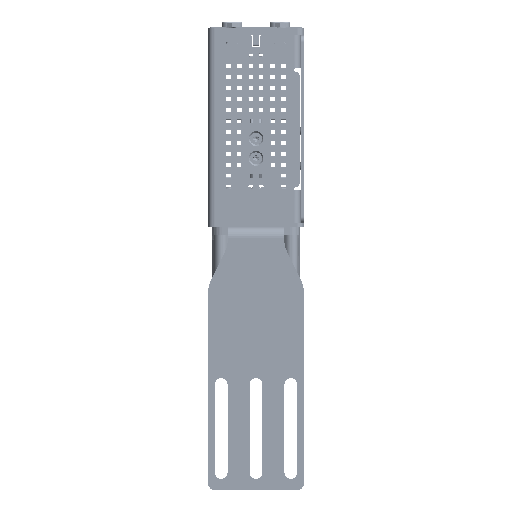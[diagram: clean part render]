
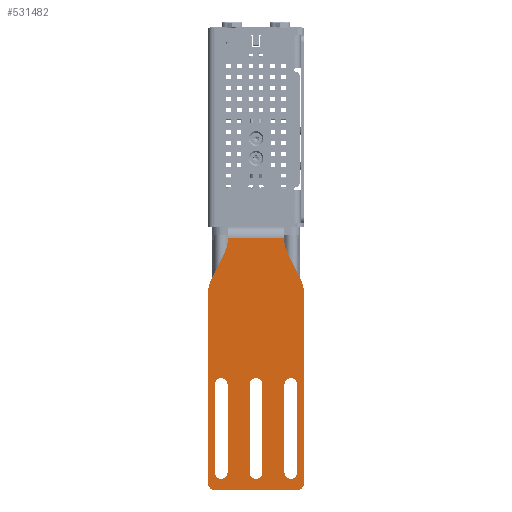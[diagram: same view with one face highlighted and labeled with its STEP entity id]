
A CAD part, left-side view. The second image highlights one B-rep face of the part: STEP entity #531482.
In plain terms, the highlighted planar face has unit normal (-1, 0, 0) as drawn and (0, 0, -1) by its records, which use the part's own axes.
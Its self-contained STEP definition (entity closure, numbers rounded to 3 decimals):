
#530785=DIRECTION('',(1.,0.,0.));
#530786=VECTOR('',#530785,40.);
#530787=CARTESIAN_POINT('',(12.,18.8,0.));
#530788=LINE('',#530787,#530786);
#530789=CARTESIAN_POINT('',(52.,15.88,0.));
#530790=DIRECTION('',(0.,0.,1.));
#530791=DIRECTION('',(0.,-1.,0.));
#530792=AXIS2_PLACEMENT_3D('',#530789,#530790,#530791);
#530794=DIRECTION('',(-1.,0.,0.));
#530795=VECTOR('',#530794,40.);
#530796=CARTESIAN_POINT('',(52.,12.96,0.));
#530797=LINE('',#530796,#530795);
#530798=CARTESIAN_POINT('',(12.,15.88,0.));
#530799=DIRECTION('',(0.,0.,1.));
#530800=DIRECTION('',(0.,1.,0.));
#530801=AXIS2_PLACEMENT_3D('',#530798,#530799,#530800);
#530803=DIRECTION('',(1.,0.,0.));
#530804=VECTOR('',#530803,40.);
#530805=CARTESIAN_POINT('',(12.,2.92,0.));
#530806=LINE('',#530805,#530804);
#530807=CARTESIAN_POINT('',(52.,0.,0.));
#530808=DIRECTION('',(0.,0.,1.));
#530809=DIRECTION('',(0.,-1.,0.));
#530810=AXIS2_PLACEMENT_3D('',#530807,#530808,#530809);
#530812=DIRECTION('',(-1.,0.,0.));
#530813=VECTOR('',#530812,40.);
#530814=CARTESIAN_POINT('',(52.,-2.92,0.));
#530815=LINE('',#530814,#530813);
#530816=CARTESIAN_POINT('',(12.,0.,0.));
#530817=DIRECTION('',(0.,0.,1.));
#530818=DIRECTION('',(0.,1.,0.));
#530819=AXIS2_PLACEMENT_3D('',#530816,#530817,#530818);
#530821=DIRECTION('',(1.,0.,0.));
#530822=VECTOR('',#530821,40.);
#530823=CARTESIAN_POINT('',(12.,-12.96,0.));
#530824=LINE('',#530823,#530822);
#530825=CARTESIAN_POINT('',(52.,-15.88,0.));
#530826=DIRECTION('',(0.,0.,1.));
#530827=DIRECTION('',(0.,-1.,0.));
#530828=AXIS2_PLACEMENT_3D('',#530825,#530826,#530827);
#530830=DIRECTION('',(-1.,0.,0.));
#530831=VECTOR('',#530830,40.);
#530832=CARTESIAN_POINT('',(52.,-18.8,0.));
#530833=LINE('',#530832,#530831);
#530834=CARTESIAN_POINT('',(12.,-15.88,0.));
#530835=DIRECTION('',(0.,0.,1.));
#530836=DIRECTION('',(0.,1.,0.));
#530837=AXIS2_PLACEMENT_3D('',#530834,#530835,#530836);
#530839=CARTESIAN_POINT('',(-29.459,6.83,0.));
#530840=DIRECTION('',(0.,0.,-1.));
#530841=DIRECTION('',(-0.447,0.894,0.));
#530842=AXIS2_PLACEMENT_3D('',#530839,#530840,#530841);
#530844=DIRECTION('',(-0.894,-0.447,0.));
#530845=VECTOR('',#530844,13.043);
#530846=CARTESIAN_POINT('',(-36.167,20.246,0.));
#530847=LINE('',#530846,#530845);
#530848=DIRECTION('',(1.,0.,0.));
#530849=VECTOR('',#530848,0.459);
#530850=CARTESIAN_POINT('',(-55.,12.83,0.));
#530851=LINE('',#530850,#530849);
#530852=DIRECTION('',(1.,0.,0.));
#530853=VECTOR('',#530852,0.459);
#530854=CARTESIAN_POINT('',(-55.,-12.83,0.));
#530855=LINE('',#530854,#530853);
#530856=DIRECTION('',(0.894,-0.447,0.));
#530857=VECTOR('',#530856,13.043);
#530858=CARTESIAN_POINT('',(-47.833,-14.414,0.));
#530859=LINE('',#530858,#530857);
#530860=CARTESIAN_POINT('',(-29.459,-6.83,0.));
#530861=DIRECTION('',(0.,0.,-1.));
#530862=DIRECTION('',(0.,-1.,0.));
#530863=AXIS2_PLACEMENT_3D('',#530860,#530861,#530862);
#530865=DIRECTION('',(1.,0.,0.));
#530866=VECTOR('',#530865,86.459);
#530867=CARTESIAN_POINT('',(-29.459,-21.83,0.));
#530868=LINE('',#530867,#530866);
#530869=CARTESIAN_POINT('',(57.,-18.83,0.));
#530870=DIRECTION('',(0.,0.,-1.));
#530871=DIRECTION('',(1.,0.,0.));
#530872=AXIS2_PLACEMENT_3D('',#530869,#530870,#530871);
#530874=DIRECTION('',(0.,1.,0.));
#530875=VECTOR('',#530874,37.66);
#530876=CARTESIAN_POINT('',(60.,-18.83,0.));
#530877=LINE('',#530876,#530875);
#530878=CARTESIAN_POINT('',(57.,18.83,0.));
#530879=DIRECTION('',(0.,0.,-1.));
#530880=DIRECTION('',(0.,1.,0.));
#530881=AXIS2_PLACEMENT_3D('',#530878,#530879,#530880);
#530883=DIRECTION('',(-1.,0.,0.));
#530884=VECTOR('',#530883,86.459);
#530885=CARTESIAN_POINT('',(57.,21.83,0.));
#530886=LINE('',#530885,#530884);
#531069=CARTESIAN_POINT('',(-54.541,-27.83,0.));
#531070=DIRECTION('',(0.,0.,1.));
#531071=DIRECTION('',(0.447,0.894,0.));
#531072=AXIS2_PLACEMENT_3D('',#531069,#531070,#531071);
#531101=DIRECTION('',(0.,-1.,0.));
#531102=VECTOR('',#531101,25.66);
#531103=CARTESIAN_POINT('',(-55.,12.83,0.));
#531104=LINE('',#531103,#531102);
#531123=CARTESIAN_POINT('',(-54.541,27.83,0.));
#531124=DIRECTION('',(0.,0.,1.));
#531125=DIRECTION('',(0.,-1.,0.));
#531126=AXIS2_PLACEMENT_3D('',#531123,#531124,#531125);
#531273=CARTESIAN_POINT('',(-55.,12.83,0.));
#531275=VERTEX_POINT('',#531273);
#531277=CARTESIAN_POINT('',(-55.,-12.83,0.));
#531279=VERTEX_POINT('',#531277);
#531305=CARTESIAN_POINT('',(12.,18.8,0.));
#531306=CARTESIAN_POINT('',(52.,18.8,0.));
#531307=VERTEX_POINT('',#531305);
#531308=VERTEX_POINT('',#531306);
#531309=CARTESIAN_POINT('',(52.,12.96,0.));
#531310=VERTEX_POINT('',#531309);
#531311=CARTESIAN_POINT('',(12.,12.96,0.));
#531312=VERTEX_POINT('',#531311);
#531313=CARTESIAN_POINT('',(12.,2.92,0.));
#531314=CARTESIAN_POINT('',(52.,2.92,0.));
#531315=VERTEX_POINT('',#531313);
#531316=VERTEX_POINT('',#531314);
#531317=CARTESIAN_POINT('',(52.,-2.92,0.));
#531318=VERTEX_POINT('',#531317);
#531319=CARTESIAN_POINT('',(12.,-2.92,0.));
#531320=VERTEX_POINT('',#531319);
#531321=CARTESIAN_POINT('',(12.,-12.96,0.));
#531322=CARTESIAN_POINT('',(52.,-12.96,0.));
#531323=VERTEX_POINT('',#531321);
#531324=VERTEX_POINT('',#531322);
#531325=CARTESIAN_POINT('',(52.,-18.8,0.));
#531326=VERTEX_POINT('',#531325);
#531327=CARTESIAN_POINT('',(12.,-18.8,0.));
#531328=VERTEX_POINT('',#531327);
#531353=CARTESIAN_POINT('',(57.,21.83,0.));
#531354=CARTESIAN_POINT('',(60.,18.83,0.));
#531355=VERTEX_POINT('',#531353);
#531356=VERTEX_POINT('',#531354);
#531361=CARTESIAN_POINT('',(60.,-18.83,0.));
#531362=CARTESIAN_POINT('',(57.,-21.83,0.));
#531363=VERTEX_POINT('',#531361);
#531364=VERTEX_POINT('',#531362);
#531385=CARTESIAN_POINT('',(-54.541,12.83,0.));
#531387=VERTEX_POINT('',#531385);
#531389=CARTESIAN_POINT('',(-47.833,14.414,0.));
#531391=VERTEX_POINT('',#531389);
#531393=CARTESIAN_POINT('',(-47.833,-14.414,0.));
#531395=VERTEX_POINT('',#531393);
#531397=CARTESIAN_POINT('',(-54.541,-12.83,0.));
#531399=VERTEX_POINT('',#531397);
#531401=CARTESIAN_POINT('',(-36.167,20.246,0.));
#531402=CARTESIAN_POINT('',(-29.459,21.83,0.));
#531403=VERTEX_POINT('',#531401);
#531404=VERTEX_POINT('',#531402);
#531409=CARTESIAN_POINT('',(-29.459,-21.83,0.));
#531410=CARTESIAN_POINT('',(-36.167,-20.246,0.));
#531411=VERTEX_POINT('',#531409);
#531412=VERTEX_POINT('',#531410);
#531417=CARTESIAN_POINT('',(0.,0.,0.));
#531418=DIRECTION('',(0.,0.,1.));
#531419=DIRECTION('',(1.,0.,0.));
#531420=AXIS2_PLACEMENT_3D('',#531417,#531418,#531419);
#531421=PLANE('',#531420);
#531423=ORIENTED_EDGE('',*,*,#531422,.F.);
#531425=ORIENTED_EDGE('',*,*,#531424,.T.);
#531427=ORIENTED_EDGE('',*,*,#531426,.F.);
#531429=ORIENTED_EDGE('',*,*,#531428,.F.);
#531431=ORIENTED_EDGE('',*,*,#531430,.T.);
#531433=ORIENTED_EDGE('',*,*,#531432,.T.);
#531435=ORIENTED_EDGE('',*,*,#531434,.F.);
#531437=ORIENTED_EDGE('',*,*,#531436,.T.);
#531439=ORIENTED_EDGE('',*,*,#531438,.F.);
#531441=ORIENTED_EDGE('',*,*,#531440,.T.);
#531443=ORIENTED_EDGE('',*,*,#531442,.F.);
#531445=ORIENTED_EDGE('',*,*,#531444,.T.);
#531447=ORIENTED_EDGE('',*,*,#531446,.F.);
#531449=ORIENTED_EDGE('',*,*,#531448,.T.);
#531450=EDGE_LOOP('',(#531423,#531425,#531427,#531429,#531431,#531433,#531435,
#531437,#531439,#531441,#531443,#531445,#531447,#531449));
#531451=FACE_OUTER_BOUND('',#531450,.F.);
#531453=ORIENTED_EDGE('',*,*,#531452,.T.);
#531455=ORIENTED_EDGE('',*,*,#531454,.F.);
#531457=ORIENTED_EDGE('',*,*,#531456,.T.);
#531459=ORIENTED_EDGE('',*,*,#531458,.F.);
#531460=EDGE_LOOP('',(#531453,#531455,#531457,#531459));
#531461=FACE_BOUND('',#531460,.F.);
#531463=ORIENTED_EDGE('',*,*,#531462,.T.);
#531465=ORIENTED_EDGE('',*,*,#531464,.F.);
#531467=ORIENTED_EDGE('',*,*,#531466,.T.);
#531469=ORIENTED_EDGE('',*,*,#531468,.F.);
#531470=EDGE_LOOP('',(#531463,#531465,#531467,#531469));
#531471=FACE_BOUND('',#531470,.F.);
#531473=ORIENTED_EDGE('',*,*,#531472,.T.);
#531475=ORIENTED_EDGE('',*,*,#531474,.F.);
#531477=ORIENTED_EDGE('',*,*,#531476,.T.);
#531479=ORIENTED_EDGE('',*,*,#531478,.F.);
#531480=EDGE_LOOP('',(#531473,#531475,#531477,#531479));
#531481=FACE_BOUND('',#531480,.F.);
#530793=CIRCLE('',#530792,2.92);
#530802=CIRCLE('',#530801,2.92);
#530811=CIRCLE('',#530810,2.92);
#530820=CIRCLE('',#530819,2.92);
#530829=CIRCLE('',#530828,2.92);
#530838=CIRCLE('',#530837,2.92);
#530843=CIRCLE('',#530842,15.);
#530864=CIRCLE('',#530863,15.);
#530873=CIRCLE('',#530872,3.);
#530882=CIRCLE('',#530881,3.);
#531073=CIRCLE('',#531072,15.);
#531127=CIRCLE('',#531126,15.);
#531422=EDGE_CURVE('',#531403,#531404,#530843,.T.);
#531424=EDGE_CURVE('',#531403,#531391,#530847,.T.);
#531426=EDGE_CURVE('',#531387,#531391,#531127,.T.);
#531428=EDGE_CURVE('',#531275,#531387,#530851,.T.);
#531430=EDGE_CURVE('',#531275,#531279,#531104,.T.);
#531432=EDGE_CURVE('',#531279,#531399,#530855,.T.);
#531434=EDGE_CURVE('',#531395,#531399,#531073,.T.);
#531436=EDGE_CURVE('',#531395,#531412,#530859,.T.);
#531438=EDGE_CURVE('',#531411,#531412,#530864,.T.);
#531440=EDGE_CURVE('',#531411,#531364,#530868,.T.);
#531442=EDGE_CURVE('',#531363,#531364,#530873,.T.);
#531444=EDGE_CURVE('',#531363,#531356,#530877,.T.);
#531446=EDGE_CURVE('',#531355,#531356,#530882,.T.);
#531448=EDGE_CURVE('',#531355,#531404,#530886,.T.);
#531452=EDGE_CURVE('',#531315,#531316,#530806,.T.);
#531454=EDGE_CURVE('',#531318,#531316,#530811,.T.);
#531456=EDGE_CURVE('',#531318,#531320,#530815,.T.);
#531458=EDGE_CURVE('',#531315,#531320,#530820,.T.);
#531462=EDGE_CURVE('',#531323,#531324,#530824,.T.);
#531464=EDGE_CURVE('',#531326,#531324,#530829,.T.);
#531466=EDGE_CURVE('',#531326,#531328,#530833,.T.);
#531468=EDGE_CURVE('',#531323,#531328,#530838,.T.);
#531472=EDGE_CURVE('',#531307,#531308,#530788,.T.);
#531474=EDGE_CURVE('',#531310,#531308,#530793,.T.);
#531476=EDGE_CURVE('',#531310,#531312,#530797,.T.);
#531478=EDGE_CURVE('',#531307,#531312,#530802,.T.);
#531482=ADVANCED_FACE('',(#531451,#531461,#531471,#531481),#531421,.F.);
